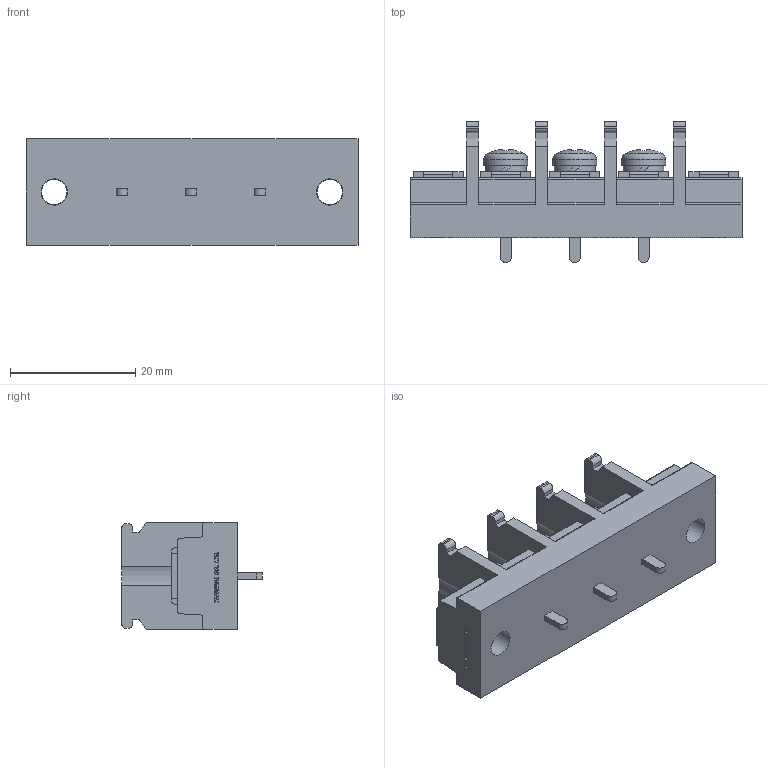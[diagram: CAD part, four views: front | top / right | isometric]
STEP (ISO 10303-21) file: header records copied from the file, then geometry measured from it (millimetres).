
FILE_DESCRIPTION(/* description */ ('Alibre Inc.'),/* implementation_level */ '2;1');
FILE_NAME(/* name */ 'export0',/* time_stamp */ '2015-10-19T19:06:06+09:00',/* author */ (''),/* organization */ (''),/* preprocessor_version */ 'ST-DEVELOPER v14',/* originating_system */ 'Alibre',/* authorisation */ '');
FILE_SCHEMA (('CONFIG_CONTROL_DESIGN'));
Length unit declared in the file: centimetre
Products named in the file (1): ID_1
Bounding box: 53 x 22.5 x 17 mm (x, y, z)
Volume: 9194.3 mm3; surface area: 5366.4 mm2
Topology: 1 solids, 1 shells, 669 faces, 1835 edges, 1221 vertices
Faces by surface type: plane 474, bspline 104, cylinder 70, cone 12, torus 6, sphere 3
Full cylindrical faces by diameter (mm): 4 x5, 4.2 x2, 6.5 x3, 7 x3
Entity records: 20612 total; most frequent: CARTESIAN_POINT 4703, ORIENTED_EDGE 3616, DIRECTION 2444, EDGE_CURVE 1808, VECTOR 1342, LINE 1342, VERTEX_POINT 1210, AXIS2_PLACEMENT_3D 783
